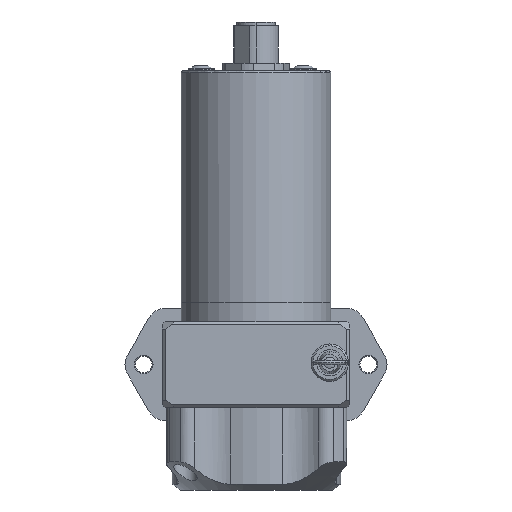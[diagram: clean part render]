
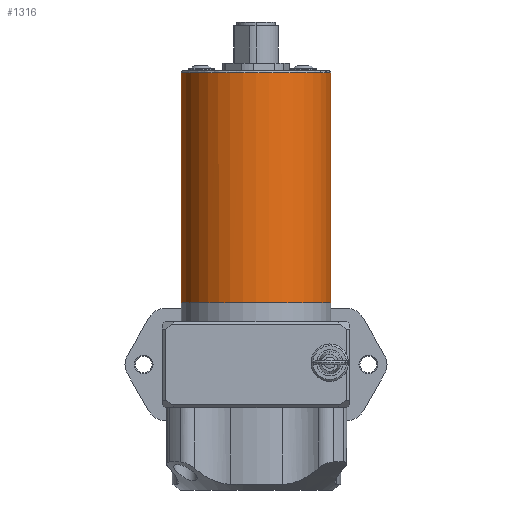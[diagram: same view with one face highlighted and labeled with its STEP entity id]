
A CAD part, front view. The second image highlights one B-rep face of the part: STEP entity #1316.
In plain terms, the highlighted cylindrical face has radius 20 mm (diameter 40 mm), a partial arc.
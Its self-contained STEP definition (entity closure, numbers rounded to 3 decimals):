
#1226 = VERTEX_POINT ( 'NONE', #7328 ) ;
#1264 = EDGE_CURVE ( 'NONE', #1270, #1268, #7448, .T. ) ;
#1268 = VERTEX_POINT ( 'NONE', #7490 ) ;
#1270 = VERTEX_POINT ( 'NONE', #7489 ) ;
#1285 = EDGE_CURVE ( 'NONE', #1270, #1331, #7587, .T. ) ;
#1307 = ORIENTED_EDGE ( 'NONE', *, *, #1308, .T. ) ;
#1308 = EDGE_CURVE ( 'NONE', #1226, #1331, #7899, .T. ) ;
#1312 = EDGE_CURVE ( 'NONE', #1268, #1334, #7972, .T. ) ;
#1314 = ORIENTED_EDGE ( 'NONE', *, *, #1264, .T. ) ;
#1315 = ORIENTED_EDGE ( 'NONE', *, *, #1285, .F. ) ;
#1316 = ADVANCED_FACE ( 'NONE', ( #7967 ), #8017, .T. ) ;
#1317 = ORIENTED_EDGE ( 'NONE', *, *, #1312, .T. ) ;
#1319 = ORIENTED_EDGE ( 'NONE', *, *, #1321, .T. ) ;
#1320 = EDGE_LOOP ( 'NONE', ( #1315, #1314, #1317, #1319, #1307 ) ) ;
#1321 = EDGE_CURVE ( 'NONE', #1334, #1226, #8011, .T. ) ;
#1331 = VERTEX_POINT ( 'NONE', #8004 ) ;
#1334 = VERTEX_POINT ( 'NONE', #8081 ) ;
#7328 = CARTESIAN_POINT ( 'NONE',  ( -20., 0., 28. ) ) ;
#7444 = DIRECTION ( 'NONE',  ( -1., 0., 0. ) ) ;
#7445 = DIRECTION ( 'NONE',  ( 0., 0., -1. ) ) ;
#7446 = CARTESIAN_POINT ( 'NONE',  ( 0., 0., 89.5 ) ) ;
#7447 = AXIS2_PLACEMENT_3D ( 'NONE', #7446, #7445, #7444 ) ;
#7448 = CIRCLE ( 'NONE', #7447, 20. ) ;
#7489 = CARTESIAN_POINT ( 'NONE',  ( 20., 0., 89.5 ) ) ;
#7490 = CARTESIAN_POINT ( 'NONE',  ( 20., -0.092, 89.5 ) ) ;
#7587 = LINE ( 'NONE', #7728, #7727 ) ;
#7726 = DIRECTION ( 'NONE',  ( 0., 0., -1. ) ) ;
#7727 = VECTOR ( 'NONE', #7726, 1000. ) ;
#7728 = CARTESIAN_POINT ( 'NONE',  ( 20., 0., 28. ) ) ;
#7895 = DIRECTION ( 'NONE',  ( -1., 0., 0. ) ) ;
#7896 = DIRECTION ( 'NONE',  ( 0., 0., 1. ) ) ;
#7897 = CARTESIAN_POINT ( 'NONE',  ( 0., 0., 28. ) ) ;
#7898 = AXIS2_PLACEMENT_3D ( 'NONE', #7897, #7896, #7895 ) ;
#7899 = CIRCLE ( 'NONE', #7898, 20. ) ;
#7967 = FACE_OUTER_BOUND ( 'NONE', #1320, .T. ) ;
#7968 = DIRECTION ( 'NONE',  ( -1., 0., 0. ) ) ;
#7969 = DIRECTION ( 'NONE',  ( 0., 0., -1. ) ) ;
#7970 = CARTESIAN_POINT ( 'NONE',  ( 0., 0., 89.5 ) ) ;
#7971 = AXIS2_PLACEMENT_3D ( 'NONE', #7970, #7969, #7968 ) ;
#7972 = CIRCLE ( 'NONE', #7971, 20. ) ;
#8004 = CARTESIAN_POINT ( 'NONE',  ( 20., 0., 28. ) ) ;
#8008 = DIRECTION ( 'NONE',  ( 0., 0., -1. ) ) ;
#8009 = VECTOR ( 'NONE', #8008, 1000. ) ;
#8010 = CARTESIAN_POINT ( 'NONE',  ( -20., 0., 28. ) ) ;
#8011 = LINE ( 'NONE', #8010, #8009 ) ;
#8012 = DIRECTION ( 'NONE',  ( -1., 0., 0. ) ) ;
#8013 = DIRECTION ( 'NONE',  ( 0., 0., -1. ) ) ;
#8014 = CARTESIAN_POINT ( 'NONE',  ( 0., 0., 28. ) ) ;
#8015 = AXIS2_PLACEMENT_3D ( 'NONE', #8014, #8013, #8012 ) ;
#8017 = CYLINDRICAL_SURFACE ( 'NONE', #8015, 20. ) ;
#8081 = CARTESIAN_POINT ( 'NONE',  ( -20., 0., 89.5 ) ) ;
